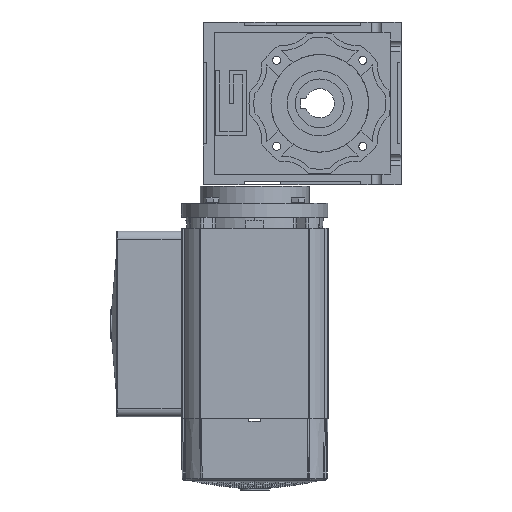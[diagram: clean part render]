
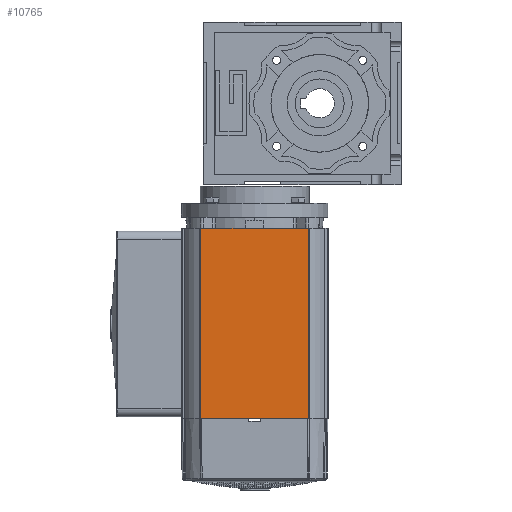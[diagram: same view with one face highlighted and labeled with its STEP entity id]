
A CAD part, left-side view. The second image highlights one B-rep face of the part: STEP entity #10765.
In plain terms, the highlighted planar face has unit normal (-1, 0, 0).
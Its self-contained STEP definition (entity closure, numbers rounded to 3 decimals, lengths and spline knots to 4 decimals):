
#10594 = ORIENTED_EDGE ( 'NONE', *, *, #10860, .T. ) ;
#10703 = EDGE_LOOP ( 'NONE', ( #10594, #11431, #11246, #11234 ) ) ;
#10742 = VERTEX_POINT ( 'NONE', #32324 ) ;
#10765 = ADVANCED_FACE ( 'NONE', ( #32349 ), #32348, .F. ) ;
#10766 = VERTEX_POINT ( 'NONE', #32343 ) ;
#10860 = EDGE_CURVE ( 'NONE', #10766, #10742, #32504, .T. ) ;
#11130 = VERTEX_POINT ( 'NONE', #33031 ) ;
#11232 = EDGE_CURVE ( 'NONE', #11247, #10766, #33172, .T. ) ;
#11234 = ORIENTED_EDGE ( 'NONE', *, *, #11232, .T. ) ;
#11241 = EDGE_CURVE ( 'NONE', #11130, #11247, #33215, .T. ) ;
#11246 = ORIENTED_EDGE ( 'NONE', *, *, #11241, .T. ) ;
#11247 = VERTEX_POINT ( 'NONE', #33211 ) ;
#11422 = EDGE_CURVE ( 'NONE', #10742, #11130, #33557, .T. ) ;
#11431 = ORIENTED_EDGE ( 'NONE', *, *, #11422, .T. ) ;
#32324 = CARTESIAN_POINT ( 'NONE',  ( -1.7766, -1.3049, 4.104 ) ) ;
#32343 = CARTESIAN_POINT ( 'NONE',  ( -1.7766, -1.3049, -0.501 ) ) ;
#32344 = DIRECTION ( 'NONE',  ( 0., 0., -1. ) ) ;
#32345 = DIRECTION ( 'NONE',  ( 1., 0., 0. ) ) ;
#32346 = AXIS2_PLACEMENT_3D ( 'NONE', #32347, #32345, #32344 ) ;
#32347 = CARTESIAN_POINT ( 'NONE',  ( -1.7766, -1.3249, 4.187 ) ) ;
#32348 = PLANE ( 'NONE',  #32346 ) ;
#32349 = FACE_OUTER_BOUND ( 'NONE', #10703, .T. ) ;
#32501 = DIRECTION ( 'NONE',  ( 0., 0., 1. ) ) ;
#32502 = VECTOR ( 'NONE', #32501, 39.3701 ) ;
#32503 = CARTESIAN_POINT ( 'NONE',  ( -1.7766, -1.3049, 4.187 ) ) ;
#32504 = LINE ( 'NONE', #32503, #32502 ) ;
#33031 = CARTESIAN_POINT ( 'NONE',  ( -1.7764, 1.3051, 4.104 ) ) ;
#33169 = DIRECTION ( 'NONE',  ( 0., -1., 0. ) ) ;
#33170 = VECTOR ( 'NONE', #33169, 39.3701 ) ;
#33171 = CARTESIAN_POINT ( 'NONE',  ( -1.7766, -1.3249, -0.501 ) ) ;
#33172 = LINE ( 'NONE', #33171, #33170 ) ;
#33211 = CARTESIAN_POINT ( 'NONE',  ( -1.7764, 1.3051, -0.501 ) ) ;
#33212 = DIRECTION ( 'NONE',  ( 0., 0., -1. ) ) ;
#33213 = VECTOR ( 'NONE', #33212, 39.3701 ) ;
#33214 = CARTESIAN_POINT ( 'NONE',  ( -1.7764, 1.3051, 4.187 ) ) ;
#33215 = LINE ( 'NONE', #33214, #33213 ) ;
#33554 = DIRECTION ( 'NONE',  ( 0., 1., 0. ) ) ;
#33555 = VECTOR ( 'NONE', #33554, 39.3701 ) ;
#33556 = CARTESIAN_POINT ( 'NONE',  ( -1.7766, -1.7764, 4.104 ) ) ;
#33557 = LINE ( 'NONE', #33556, #33555 ) ;
